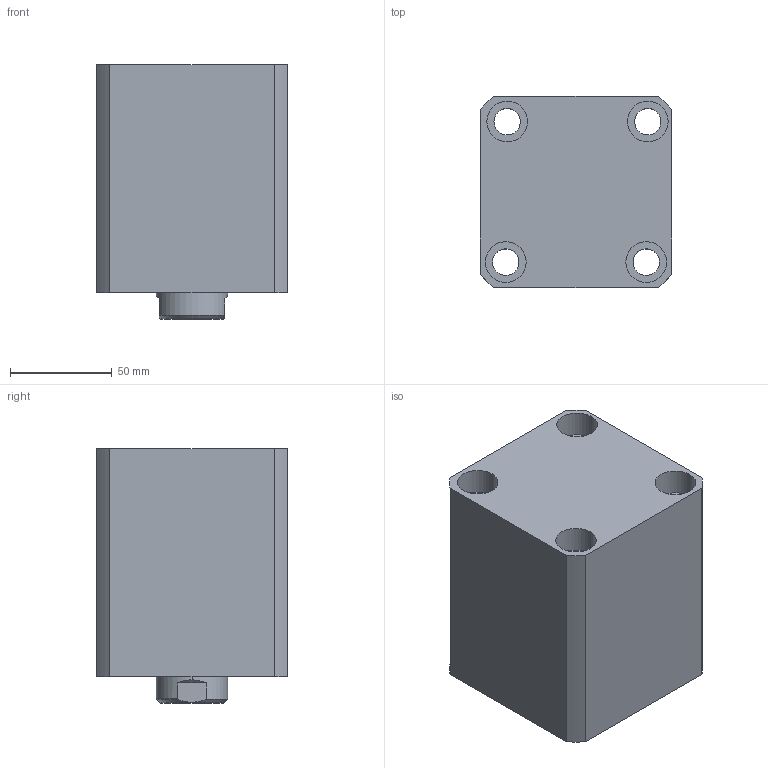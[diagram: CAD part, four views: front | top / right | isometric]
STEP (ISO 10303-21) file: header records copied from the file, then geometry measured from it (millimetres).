
FILE_DESCRIPTION (( 'STEP AP214' ), '1' );
FILE_NAME ('chtb-sdma63x45n_asm.STEP', '2018-05-16T02:31:32', ( 'Windows' ), ( 'Microsoft' ), 'SwSTEP 2.0', 'SolidWorks 2015', '' );
FILE_SCHEMA (( 'AUTOMOTIVE_DESIGN' ));
Length unit declared in the file: millimetre
Products named in the file (4): CHTB-SDMA63X45NBT; CHTB63X45NHSG; CHTB-63QG; chtb-sdma63x45n_asm
Assembly tree (3 placements, depth 2):
  chtb-sdma63x45n_asm
    CHTB-63QG
    CHTB63X45NHSG
    CHTB-SDMA63X45NBT
Bounding box: 94 x 94 x 125 mm (x, y, z)
Volume: 805250.7 mm3; surface area: 141359.7 mm2
Topology: 3 solids, 3 shells, 165 faces, 472 edges, 321 vertices
Faces by surface type: cylinder 107, plane 31, bspline 12, cone 8, torus 7
Entity records: 17727 total; most frequent: CARTESIAN_POINT 13576, ORIENTED_EDGE 932, DIRECTION 716, EDGE_CURVE 466, VERTEX_POINT 321, AXIS2_PLACEMENT_3D 288, EDGE_LOOP 197, FACE_OUTER_BOUND 165
